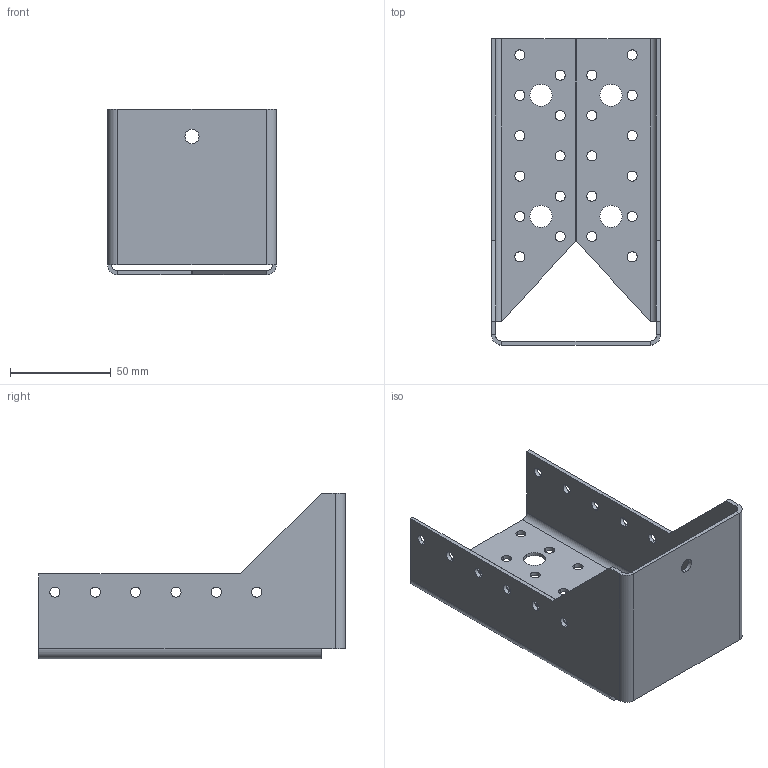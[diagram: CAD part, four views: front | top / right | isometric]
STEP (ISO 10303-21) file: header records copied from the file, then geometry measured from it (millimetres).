
FILE_DESCRIPTION (( 'STEP AP203' ), '1' );
FILE_NAME ('30620IKO.STEP', '2020-04-08T12:47:46', ( '' ), ( '' ), 'SwSTEP 2.0', 'SolidWorks 2013', '' );
FILE_SCHEMA (( 'CONFIG_CONTROL_DESIGN' ));
Length unit declared in the file: millimetre
Products named in the file (1): 30620IKO
Bounding box: 83.72 x 151.86 x 82 mm (x, y, z)
Volume: 58426.2 mm3; surface area: 61805.3 mm2
Topology: 1 solids, 1 shells, 122 faces, 328 edges, 208 vertices
Faces by surface type: cylinder 86, plane 36
Entity records: 4101 total; most frequent: DIRECTION 746, CARTESIAN_POINT 659, ORIENTED_EDGE 656, EDGE_CURVE 328, AXIS2_PLACEMENT_3D 295, VERTEX_POINT 208, EDGE_LOOP 200, CIRCLE 172
